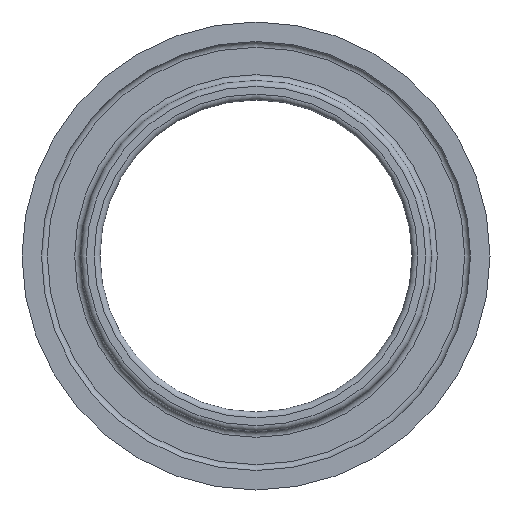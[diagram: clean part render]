
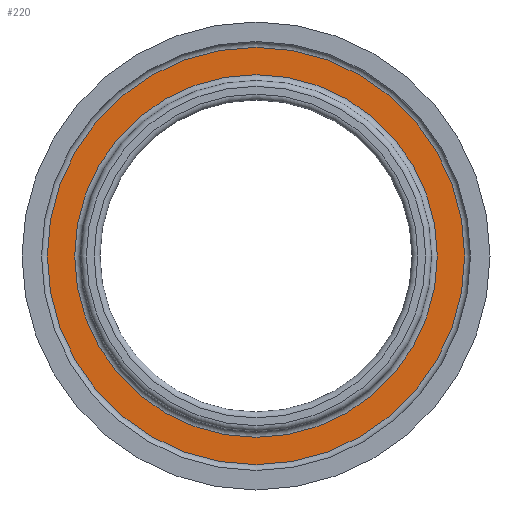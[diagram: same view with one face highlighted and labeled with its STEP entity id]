
A CAD part, front view. The second image highlights one B-rep face of the part: STEP entity #220.
In plain terms, the highlighted planar face has unit normal (0, -1, 0).
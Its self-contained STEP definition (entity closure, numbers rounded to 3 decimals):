
#30=FACE_BOUND('',#64,.T.);
#34=PLANE('',#276);
#46=FACE_OUTER_BOUND('',#63,.T.);
#63=EDGE_LOOP('',(#190));
#64=EDGE_LOOP('',(#191));
#88=CIRCLE('',#275,53.5);
#89=CIRCLE('',#277,46.5);
#109=VERTEX_POINT('',#420);
#110=VERTEX_POINT('',#424);
#137=EDGE_CURVE('',#109,#109,#88,.T.);
#138=EDGE_CURVE('',#110,#110,#89,.T.);
#190=ORIENTED_EDGE('',*,*,#137,.T.);
#191=ORIENTED_EDGE('',*,*,#138,.F.);
#220=ADVANCED_FACE('',(#46,#30),#34,.T.);
#275=AXIS2_PLACEMENT_3D('',#422,#352,#353);
#276=AXIS2_PLACEMENT_3D('',#423,#354,#355);
#277=AXIS2_PLACEMENT_3D('',#425,#356,#357);
#352=DIRECTION('center_axis',(0.,-1.,0.));
#353=DIRECTION('ref_axis',(1.,0.,0.));
#354=DIRECTION('center_axis',(0.,-1.,0.));
#355=DIRECTION('ref_axis',(0.,0.,-1.));
#356=DIRECTION('center_axis',(0.,-1.,0.));
#357=DIRECTION('ref_axis',(1.,0.,0.));
#420=CARTESIAN_POINT('',(0.,7.,53.5));
#422=CARTESIAN_POINT('Origin',(0.,7.,0.));
#423=CARTESIAN_POINT('Origin',(46.5,7.,0.));
#424=CARTESIAN_POINT('',(0.,7.,46.5));
#425=CARTESIAN_POINT('Origin',(0.,7.,0.));
